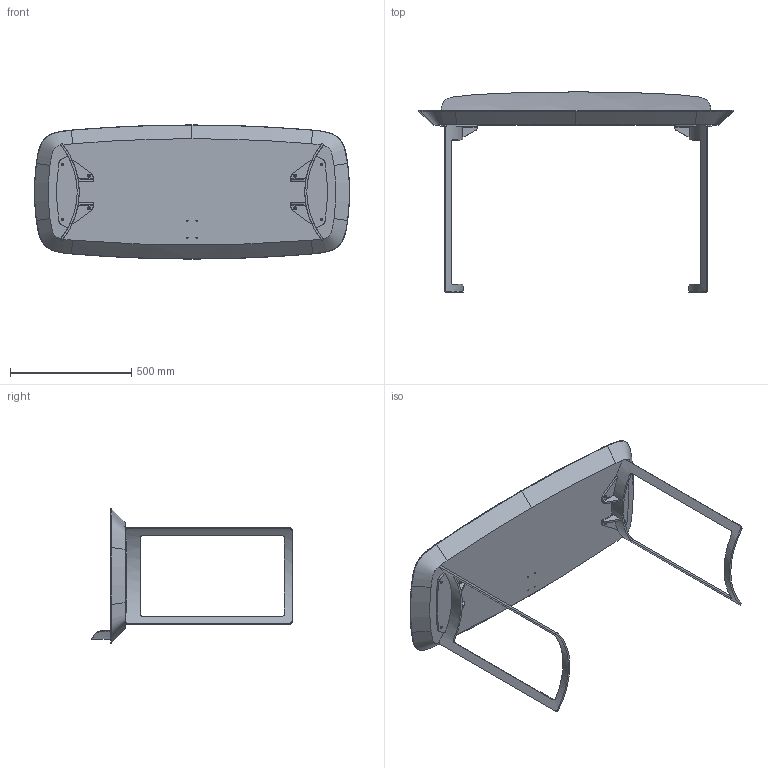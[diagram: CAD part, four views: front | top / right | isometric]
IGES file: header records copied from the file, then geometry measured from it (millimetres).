
Start section: SolidWorks IGES file using analytic representation for surfaces
Global section: file name: Y:\eforma\TECNICO\SOLIDWORKS\E-FORMA\7-SCRIVANIE\ICON\02 parts\IC01W_Icon Desk_130x59x75h.IGS; native system: SolidWorks 2022; preprocessor: SolidWorks 2022; author: eforma.tech; date: 240806.091404; units: millimetre
Bounding box: 1301.7 x 826.94 x 554 mm (x, y, z)
Volume: 37023470.6 mm3; surface area: 2144489.6 mm2
Topology: 6 solids, 6 shells, 361 faces, 952 edges, 591 vertices
Faces by surface type: revolution 207, plane 123, bspline 31
